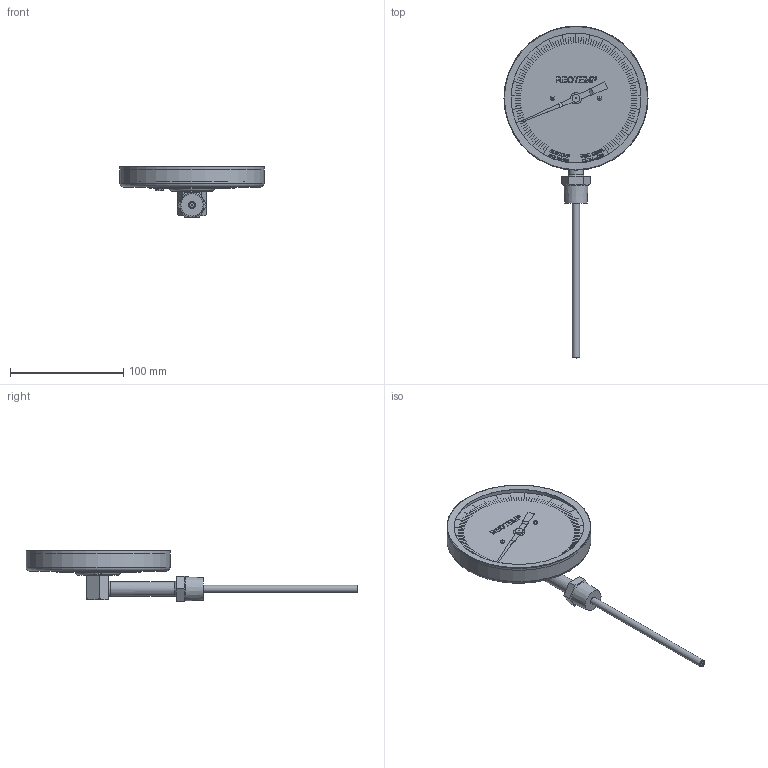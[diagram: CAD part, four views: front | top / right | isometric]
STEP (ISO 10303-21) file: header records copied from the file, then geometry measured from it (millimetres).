
FILE_DESCRIPTION(/* description */ (''),/* implementation_level */ '2;1');
FILE_NAME(/* name */ 'P:\3D Drawings\VR\VR-half-NPT\VR-half-NPT-STP\VR-half-NPT-STP.stp',/* time_stamp */ '2015-11-09T11:45:06-08:00',/* author */ ('charles'),/* organization */ (''),/* preprocessor_version */ 'ST-DEVELOPER v15.2',/* originating_system */ 'Autodesk Inventor 2014',/* authorisation */ '');
FILE_SCHEMA (('AUTOMOTIVE_DESIGN { 1 0 10303 214 3 1 1 }'));
Length unit declared in the file: inch
Products named in the file (1): VR-half-NPT
Bounding box: 127 x 292.6 x 44.94 mm (x, y, z)
Volume: 108363.8 mm3; surface area: 75266.2 mm2
Topology: 16 solids, 16 shells, 1291 faces, 3322 edges, 2203 vertices
Faces by surface type: plane 1043, bspline 201, cylinder 26, torus 11, cone 10
Full cylindrical faces by diameter (mm): 0.778 x1, 1.067 x1, 2.286 x2, 3.175 x1, 6.071 x1, 6.35 x1, 6.934 x1, 6.985 x1, 12.7 x1, 74.93 x1, 114.348 x1, 121.158 x1, 124.931 x1, 126.683 x1, 127 x1
Entity records: 41634 total; most frequent: CARTESIAN_POINT 10364, ORIENTED_EDGE 6564, DIRECTION 5085, EDGE_CURVE 3282, LINE 2771, VECTOR 2771, VERTEX_POINT 2194, EDGE_LOOP 1548
